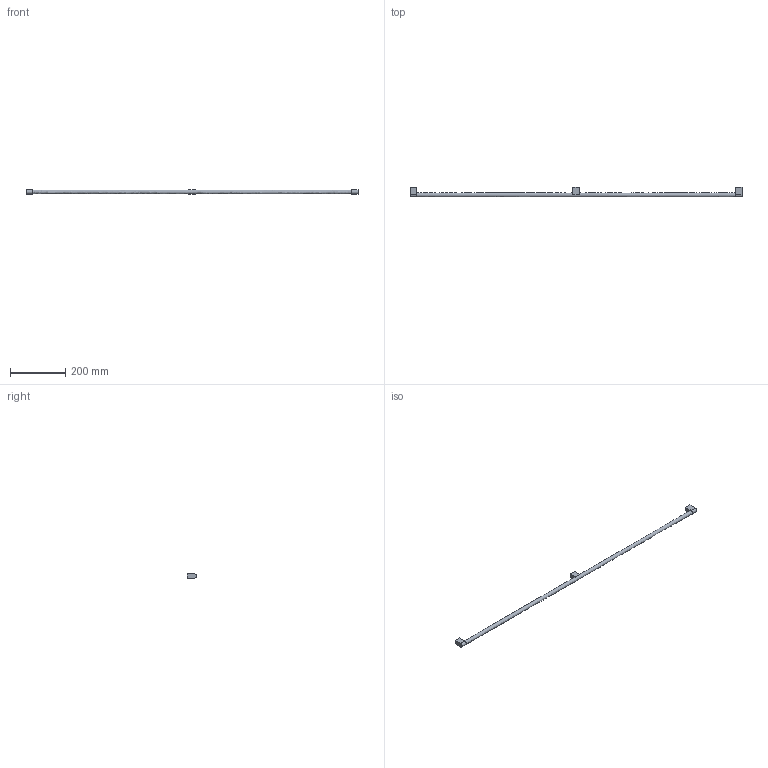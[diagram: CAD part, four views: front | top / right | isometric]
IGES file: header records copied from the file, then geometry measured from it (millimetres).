
Start section: Data from Parasolid IGES Translator 20.0.26, Copyright(c) 2006 Siemens P LM Software. All Rights Reserved.
Global section: file name: 9332358.igs; native system: By Siemens PLM Incorporated; preprocessor: XPlus GENERIC/IGES 20.0.26; author: Noname; organization: Noname; date: 20230829.123214; units: millimetre
Bounding box: 1200 x 35.36 x 14.64 mm (x, y, z)
Surface area: 60028.7 mm2 (no closed solid volume)
Topology: 0 solids, 0 shells, 26 faces, 108 edges, 102 vertices
Faces by surface type: extrusion 20, revolution 6
